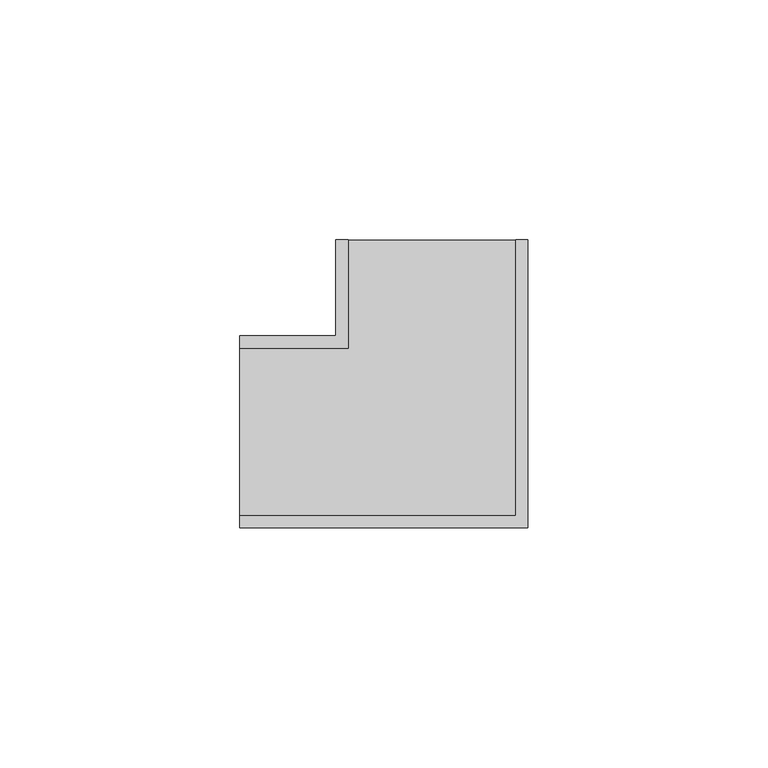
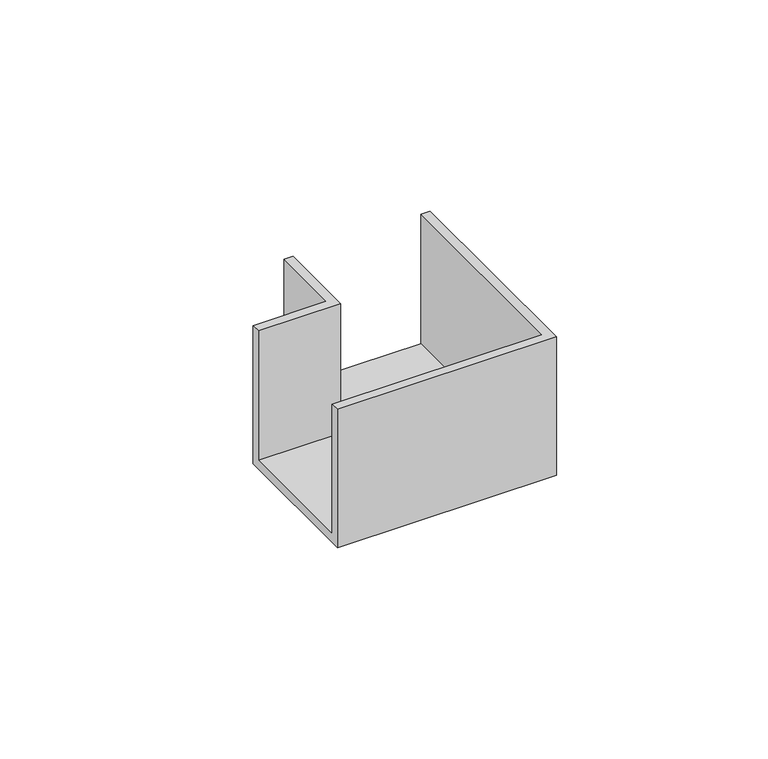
"""IFC4 building model written with IfcOpenShell, lengths in millimetres: cable carrier fitting geometry, КНС_УголПлоский NPAN_ILC_DKC : Угол плоский NPAN_DKC."""

from ifc_helpers import new_model, si_unit, origin, place, context, project, spatial, faceted_brep, source, transform, mapped, element, save


def cable_carrier_fitting_73be0968(model_context):
    return source(origin(), model_context, "Body", "Brep", [
        faceted_brep([(-40.0, 20.0, -20.0), (-40.0, -20.0, -20.0), (-40.0, -20.0, 20.0), (-40.0, -17.46, 20.0), (-40.0, -17.46, -17.46), (-40.0, 17.46, -17.46), (-40.0, 17.46, 20.0), (-40.0, 20.0, 20.0), (-20.0, 20.0, -20.0), (-20.0, 40.0, -20.0), (20.0, 40.0, -20.0), (20.0, -20.0, -20.0), (20.0, -20.0, 20.0), (20.0, 40.0, 20.0), (17.46, 40.0, 20.0), (17.46, -17.46, 20.0), (17.46, -17.46, -17.46), (17.46, 40.0, -17.46), (-17.46, 40.0, -17.46), (-17.46, 17.46, -17.46), (-17.46, 17.46, 20.0), (-17.46, 40.0, 20.0), (-20.0, 40.0, 20.0), (-20.0, 20.0, 20.0)], [[[0, 1, 2, 3, 4, 5, 6, 7]], [[1, 0, 8, 9, 10, 11]], [[2, 1, 11, 12]], [[3, 2, 12, 13, 14, 15]], [[4, 3, 15, 16]], [[5, 4, 16, 17, 18, 19]], [[6, 5, 19, 20]], [[7, 6, 20, 21, 22, 23]], [[0, 7, 23, 8]], [[9, 22, 21, 18, 17, 14, 13, 10]], [[12, 11, 10, 13]], [[16, 15, 14, 17]], [[20, 19, 18, 21]], [[8, 23, 22, 9]]]),
    ])


if __name__ == "__main__":
    model = new_model("IFC4")
    model_context = context("Model", 3, world=origin())
    ifc_project = project(units=[si_unit("LENGTHUNIT", "METRE", prefix="MILLI")], contexts=[model_context])
    site = spatial("IfcSite", under=ifc_project)
    building = spatial("IfcBuilding", under=site)
    placement = place(None, origin())
    cable_carrier_fitting_shape = cable_carrier_fitting_73be0968(model_context)
    element("IfcCableCarrierFitting", 1, ObjectType="КНС_УголПлоский NPAN_ILC_DKC : Угол плоский NPAN_DKC", at=placement, inside=building, context=model_context, shape_type="MappedRepresentation", body=[
        mapped(cable_carrier_fitting_shape, transform((0.0, 0.0, 0.0), x_axis=(1.0, 0.0, 0.0), y_axis=(0.0, 1.0, 0.0), z_axis=(0.0, 0.0, 1.0))),
    ])
    save(model, "model.ifc")
